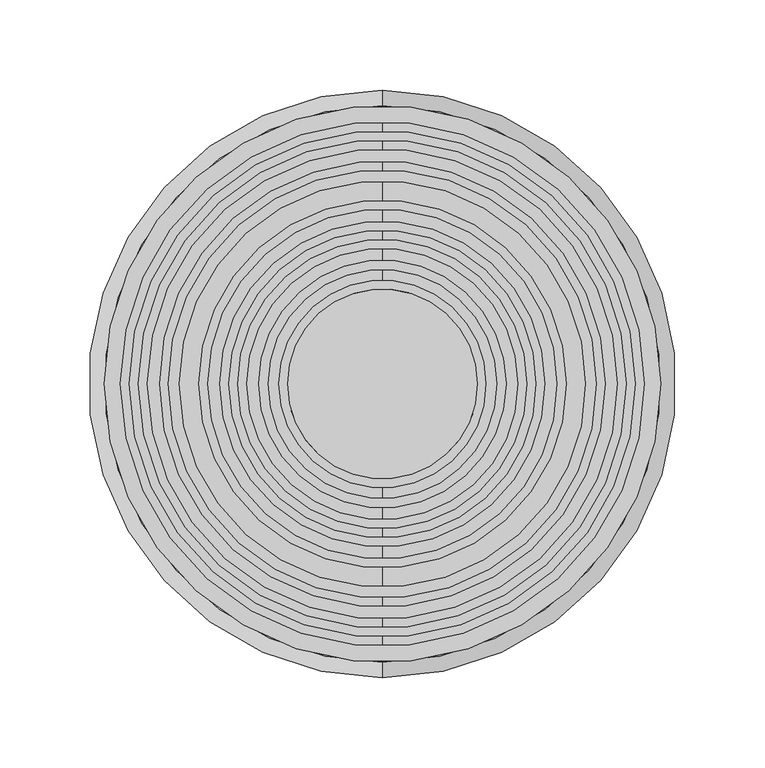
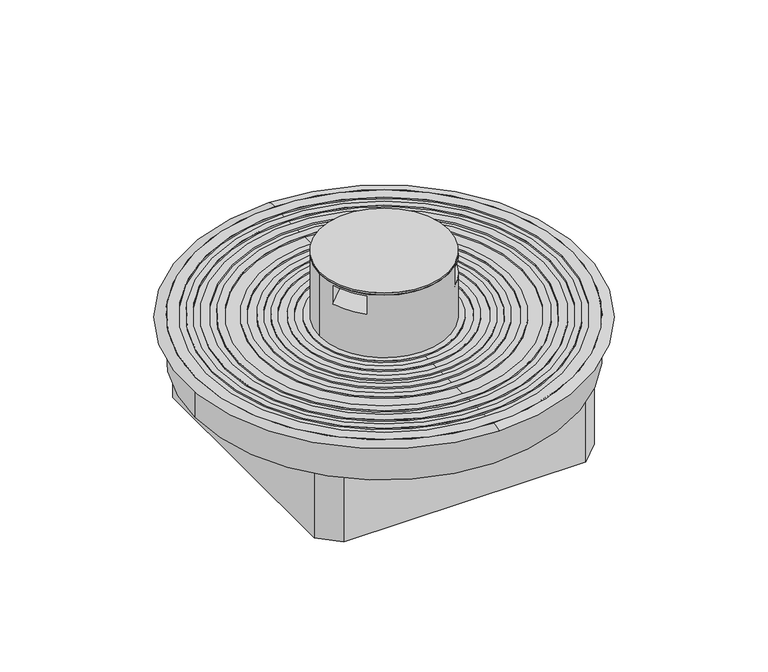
"""IFC4 building model written with IfcOpenShell, lengths in millimetres: proxy geometry, Electrical_Installation_Hager_VE-EE_VANR-Service-unit-for-wet-cleaned-floors-with-tube-cable-outlete-made-of-polyamide : Service unit R12 w set HB wet PA-Tub Al R."""

from ifc_helpers import new_model, si_unit, point, frame, origin, origin_with_axes, origin_2d, place, context, project, spatial, polyline, circle_curve, ellipse_curve, trimmed, segment, composite_curve, outline, extrude, source, transform, mapped, element, save
from ifc_brep_helpers import plane_surface, cylinder_surface, revolved_surface, advanced_brep


def electrical_fixtures_dd5e6c87(model_context):
    return source(origin(), model_context, "Body", "SolidModel", [
        advanced_brep(
        [(-52.5, 0.0, 55.4915844), (52.5, 0.0, 55.4915844), (-52.5, 0.0, 0.0), (52.5, 0.0, 0.0), (34.9195503, -39.2029974, 54.183128), (49.8813985, -16.37364, 54.183128), (49.8813985, -16.37364, 37.983128), (34.9195503, -39.2029974, 37.983128), (-50.3605849, -14.8344695, 54.183128), (-35.8520552, -38.3520552, 54.183128), (-35.8520552, -38.3520552, 37.983128), (-50.3605849, -14.8344695, 37.983128), (14.5983918, 50.4295246, 54.183128), (-15.4016082, 50.1900435, 54.183128), (-15.4016082, 50.1900435, 37.983128), (14.5983918, 50.4295246, 37.983128), (14.5983918, 18.9093667, 54.183128), (0.5989833, -1.9010167, 54.183128), (-15.4016082, 20.1245073, 54.183128), (-15.4016082, 20.1245073, 37.983128), (0.5989833, -1.9010167, 37.983128), (14.5983918, 18.9093667, 37.983128)],
        [
            (0, 1, circle_curve(frame((0.0, 0.0, 55.4915844), z_axis=(0.0, 0.0, 1.0), x_axis=(1.0, 0.0, 0.0)), 52.5)),
            (1, 0, circle_curve(frame((0.0, 0.0, 55.4915844), z_axis=(0.0, 0.0, 1.0), x_axis=(1.0, 0.0, 0.0)), 52.5)),
            (2, 3, circle_curve(frame((0.0, 0.0, 0.0), z_axis=(0.0, 0.0, -1.0), x_axis=(1.0, 0.0, 0.0)), 52.5)),
            (3, 2, circle_curve(frame((0.0, 0.0, 0.0), z_axis=(0.0, 0.0, -1.0), x_axis=(1.0, 0.0, 0.0)), 52.5)),
            (0, 2),
            (3, 1),
            (4, 5, circle_curve(frame((0.0, 0.0, 54.183128), z_axis=(0.0, 0.0, 1.0), x_axis=(1.0, 0.0, 0.0)), 52.5)),
            (5, 6),
            (6, 7, circle_curve(frame((0.0, 0.0, 37.983128), z_axis=(0.0, 0.0, -1.0), x_axis=(1.0, 0.0, 0.0)), 52.5)),
            (7, 4),
            (8, 9, circle_curve(frame((0.0, 0.0, 54.183128), z_axis=(0.0, 0.0, 1.0), x_axis=(1.0, 0.0, 0.0)), 52.5)),
            (9, 10),
            (10, 11, circle_curve(frame((0.0, 0.0, 37.983128), z_axis=(0.0, 0.0, -1.0), x_axis=(1.0, 0.0, 0.0)), 52.5)),
            (11, 8),
            (12, 13, circle_curve(frame((0.0, 0.0, 54.183128), z_axis=(0.0, 0.0, 1.0), x_axis=(1.0, 0.0, 0.0)), 52.5)),
            (13, 14),
            (14, 15, circle_curve(frame((0.0, 0.0, 37.983128), z_axis=(0.0, 0.0, -1.0), x_axis=(1.0, 0.0, 0.0)), 52.5)),
            (15, 12),
            (12, 16),
            (16, 5),
            (4, 17),
            (17, 9),
            (8, 18),
            (18, 13),
            (14, 19),
            (19, 11),
            (10, 20),
            (20, 7),
            (6, 21),
            (21, 15),
            (18, 19),
            (17, 20),
            (16, 21),
        ],
        [
            plane_surface(frame((52.5, 0.0, 55.4915844), z_axis=(0.0, 0.0, 1.0), x_axis=(0.0, 1.0, 0.0))),
            plane_surface(frame((52.5, 0.0, 0.0), z_axis=(0.0, 0.0, -1.0), x_axis=(0.0, -1.0, 0.0))),
            cylinder_surface(origin_with_axes(), 52.5),
            plane_surface(frame((-10.4016082, 67.6593667, 54.183128), z_axis=(0.0, 0.0, -1.0), x_axis=(-1.0, 0.0, 0.0))),
            plane_surface(frame((-10.4016082, 67.6593667, 37.983128), z_axis=(0.0, 0.0, 1.0), x_axis=(1.0, 0.0, 0.0))),
            plane_surface(frame((-15.4016082, 67.6593667, 54.183128), z_axis=(1.0, 0.0, 0.0), x_axis=(0.0, 0.0, -1.0))),
            plane_surface(frame((-15.4016082, 20.1245073, 54.183128), z_axis=(0.707106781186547, -0.707106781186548, 0.0), x_axis=(0.0, 0.0, -1.0))),
            plane_surface(frame((-40.4297486, -42.9297486, 54.183128), z_axis=(-0.7071067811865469, 0.7071067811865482, 0.0), x_axis=(0.0, 0.0, -1.0))),
            plane_surface(frame((0.5989833, -1.9010167, 54.183128), z_axis=(0.7359040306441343, 0.6770858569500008, 0.0), x_axis=(0.0, 0.0, -1.0))),
            plane_surface(frame((53.9604917, -20.4527332, 54.183128), z_axis=(-0.7071067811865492, -0.7071067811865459, 0.0), x_axis=(0.0, 0.0, -1.0))),
            plane_surface(frame((14.5983918, 18.9093667, 54.183128), z_axis=(-1.0, 0.0, 0.0), x_axis=(0.0, 0.0, -1.0))),
        ],
        [
            (0, [[1, 2]]),
            (1, [[3, 4]]),
            (2, [[-1, 5, -4, 6], [7, 8, 9, 10], [11, 12, 13, 14]]),
            (2, [[-2, -6, -3, -5], [15, 16, 17, 18]]),
            (3, [[19, 20, -7, 21, 22, -11, 23, 24, -15]]),
            (4, [[25, 26, -13, 27, 28, -9, 29, 30, -17]]),
            (5, [[31, -25, -16, -24]]),
            (6, [[-31, -23, -14, -26]]),
            (7, [[32, -27, -12, -22]]),
            (8, [[-32, -21, -10, -28]]),
            (9, [[33, -29, -8, -20]]),
            (10, [[-33, -19, -18, -30]]),
        ],
    ),
        extrude(outline(composite_curve([segment(trimmed(circle_curve(origin_2d(), 52.5), [point((-52.5, 0.0))], [point((52.5, 0.0))], False, "CARTESIAN"), True, "CONTINUOUS"), segment(trimmed(circle_curve(origin_2d(), 52.5), [point((52.5, 0.0))], [point((-52.5, 0.0))], False, "CARTESIAN"), True, "CONTINUOUS")], self_intersect=False)), frame((0.0, 0.0, 55.4915844), z_axis=(0.0, 0.0, 1.0), x_axis=(1.0, 0.0, 0.0)), (0.0, 0.0, 1.0), 1.8196468),
        extrude(outline(composite_curve([segment(trimmed(circle_curve(origin_2d(), 140.0), [point((-140.0, 0.0))], [point((140.0, 0.0))], False, "CARTESIAN"), True, "CONTINUOUS"), segment(trimmed(circle_curve(origin_2d(), 140.0), [point((140.0, 0.0))], [point((-140.0, 0.0))], False, "CARTESIAN"), True, "CONTINUOUS")], self_intersect=False), holes=[composite_curve([segment(trimmed(circle_curve(origin_2d(), 135.0), [point((135.0, 0.0))], [point((-135.0, 0.0))], True, "CARTESIAN"), True, "CONTINUOUS"), segment(trimmed(circle_curve(origin_2d(), 135.0), [point((-135.0, 0.0))], [point((135.0, 0.0))], True, "CARTESIAN"), True, "CONTINUOUS")], self_intersect=False)]), origin_with_axes(), (0.0, 0.0, 1.0), 2.0),
        extrude(outline(composite_curve([segment(trimmed(circle_curve(origin_2d(), 130.0), [point((-130.0, 0.0))], [point((130.0, 0.0))], False, "CARTESIAN"), True, "CONTINUOUS"), segment(trimmed(circle_curve(origin_2d(), 130.0), [point((130.0, 0.0))], [point((-130.0, 0.0))], False, "CARTESIAN"), True, "CONTINUOUS")], self_intersect=False), holes=[composite_curve([segment(trimmed(circle_curve(origin_2d(), 123.295296), [point((123.295296, 0.0))], [point((-123.295296, 0.0))], True, "CARTESIAN"), True, "CONTINUOUS"), segment(trimmed(circle_curve(origin_2d(), 123.295296), [point((-123.295296, 0.0))], [point((123.295296, 0.0))], True, "CARTESIAN"), True, "CONTINUOUS")], self_intersect=False)]), origin_with_axes(), (0.0, 0.0, 1.0), 2.0),
        extrude(outline(composite_curve([segment(trimmed(circle_curve(origin_2d(), 118.499994), [point((-118.499994, 0.0))], [point((118.499994, 0.0))], False, "CARTESIAN"), True, "CONTINUOUS"), segment(trimmed(circle_curve(origin_2d(), 118.499994), [point((118.499994, 0.0))], [point((-118.499994, 0.0))], False, "CARTESIAN"), True, "CONTINUOUS")], self_intersect=False), holes=[composite_curve([segment(trimmed(circle_curve(origin_2d(), 112.3953075), [point((112.3953075, 0.0))], [point((-112.3953075, 0.0))], True, "CARTESIAN"), True, "CONTINUOUS"), segment(trimmed(circle_curve(origin_2d(), 112.3953075), [point((-112.3953075, 0.0))], [point((112.3953075, 0.0))], True, "CARTESIAN"), True, "CONTINUOUS")], self_intersect=False)]), origin_with_axes(), (0.0, 0.0, 1.0), 2.0),
        extrude(outline(composite_curve([segment(trimmed(circle_curve(origin_2d(), 101.6340503), [point((-101.6340503, 0.0))], [point((101.6340503, 0.0))], False, "CARTESIAN"), True, "CONTINUOUS"), segment(trimmed(circle_curve(origin_2d(), 101.6340503), [point((101.6340503, 0.0))], [point((-101.6340503, 0.0))], False, "CARTESIAN"), True, "CONTINUOUS")], self_intersect=False), holes=[composite_curve([segment(trimmed(circle_curve(origin_2d(), 96.6344819), [point((96.6344819, 0.0))], [point((-96.6344819, 0.0))], True, "CARTESIAN"), True, "CONTINUOUS"), segment(trimmed(circle_curve(origin_2d(), 96.6344819), [point((-96.6344819, 0.0))], [point((96.6344819, 0.0))], True, "CARTESIAN"), True, "CONTINUOUS")], self_intersect=False)]), origin_with_axes(), (0.0, 0.0, 1.0), 2.0),
        extrude(outline(composite_curve([segment(trimmed(circle_curve(origin_2d(), 90.0), [point((-90.0, 0.0))], [point((90.0, 0.0))], False, "CARTESIAN"), True, "CONTINUOUS"), segment(trimmed(circle_curve(origin_2d(), 90.0), [point((90.0, 0.0))], [point((-90.0, 0.0))], False, "CARTESIAN"), True, "CONTINUOUS")], self_intersect=False), holes=[composite_curve([segment(trimmed(circle_curve(origin_2d(), 85.0), [point((85.0, 0.0))], [point((-85.0, 0.0))], True, "CARTESIAN"), True, "CONTINUOUS"), segment(trimmed(circle_curve(origin_2d(), 85.0), [point((-85.0, 0.0))], [point((85.0, 0.0))], True, "CARTESIAN"), True, "CONTINUOUS")], self_intersect=False)]), origin_with_axes(), (0.0, 0.0, 1.0), 2.0),
        extrude(outline(composite_curve([segment(trimmed(circle_curve(origin_2d(), 80.0), [point((-80.0, 0.0))], [point((80.0, 0.0))], False, "CARTESIAN"), True, "CONTINUOUS"), segment(trimmed(circle_curve(origin_2d(), 80.0), [point((80.0, 0.0))], [point((-80.0, 0.0))], False, "CARTESIAN"), True, "CONTINUOUS")], self_intersect=False), holes=[composite_curve([segment(trimmed(circle_curve(origin_2d(), 75.0), [point((75.0, 0.0))], [point((-75.0, 0.0))], True, "CARTESIAN"), True, "CONTINUOUS"), segment(trimmed(circle_curve(origin_2d(), 75.0), [point((-75.0, 0.0))], [point((75.0, 0.0))], True, "CARTESIAN"), True, "CONTINUOUS")], self_intersect=False)]), origin_with_axes(), (0.0, 0.0, 1.0), 2.0),
        extrude(outline(composite_curve([segment(trimmed(circle_curve(origin_2d(), 68.4542428), [point((-68.4542428, 0.0))], [point((68.4542428, 0.0))], False, "CARTESIAN"), True, "CONTINUOUS"), segment(trimmed(circle_curve(origin_2d(), 68.4542428), [point((68.4542428, 0.0))], [point((-68.4542428, 0.0))], False, "CARTESIAN"), True, "CONTINUOUS")], self_intersect=False), holes=[composite_curve([segment(trimmed(circle_curve(origin_2d(), 63.2916126), [point((63.2916126, 0.0))], [point((-63.2916126, 0.0))], True, "CARTESIAN"), True, "CONTINUOUS"), segment(trimmed(circle_curve(origin_2d(), 63.2916126), [point((-63.2916126, 0.0))], [point((63.2916126, 0.0))], True, "CARTESIAN"), True, "CONTINUOUS")], self_intersect=False)]), origin_with_axes(), (0.0, 0.0, 1.0), 2.0),
        extrude(outline(composite_curve([segment(trimmed(circle_curve(origin_2d(), 57.3493288), [point((-57.3493288, 0.0))], [point((57.3493288, 0.0))], False, "CARTESIAN"), True, "CONTINUOUS"), segment(trimmed(circle_curve(origin_2d(), 57.3493288), [point((57.3493288, 0.0))], [point((-57.3493288, 0.0))], False, "CARTESIAN"), True, "CONTINUOUS")], self_intersect=False)), origin_with_axes(), (0.0, 0.0, 1.0), 2.0),
        extrude(outline(composite_curve([segment(trimmed(circle_curve(origin_2d(), 154.0), [point((-154.0, 0.0))], [point((154.0, 0.0))], False, "CARTESIAN"), True, "CONTINUOUS"), segment(trimmed(circle_curve(origin_2d(), 154.0), [point((154.0, 0.0))], [point((-154.0, 0.0))], False, "CARTESIAN"), True, "CONTINUOUS")], self_intersect=False), holes=[composite_curve([segment(trimmed(circle_curve(origin_2d(), 145.0), [point((145.0, 0.0))], [point((-145.0, 0.0))], True, "CARTESIAN"), True, "CONTINUOUS"), segment(trimmed(circle_curve(origin_2d(), 145.0), [point((-145.0, 0.0))], [point((145.0, 0.0))], True, "CARTESIAN"), True, "CONTINUOUS")], self_intersect=False)]), origin_with_axes(), (0.0, 0.0, 1.0), 2.0),
        extrude(outline(polyline([(-99.0882065, 114.5), (99.3942383, 114.5), (114.5, 99.0262113), (114.5, -98.7169494), (98.5882125, -114.5), (-98.7359175, -114.5), (-114.5, -99.7976183), (-114.5, 100.165624), (-99.0882065, 114.5)]), holes=[polyline([(111.0181904, 98.7695063), (98.7659338, 111.5), (-98.7903505, 111.5), (-111.5, 98.7903505), (-111.5, -98.7903505), (-98.7903505, -111.5), (98.2048826, -111.5), (111.0181904, -96.4986902), (111.0181904, 98.7695063)])]), frame((0.0, 0.0, -90.0), z_axis=(0.0, 0.0, 1.0), x_axis=(1.0, 0.0, 0.0)), (0.0, 0.0, 1.0), 57.0),
        extrude(outline(composite_curve([segment(trimmed(circle_curve(origin_2d(), 154.0), [point((-154.0, 0.0))], [point((154.0, 0.0))], False, "CARTESIAN"), True, "CONTINUOUS"), segment(trimmed(circle_curve(origin_2d(), 154.0), [point((154.0, 0.0))], [point((-154.0, 0.0))], False, "CARTESIAN"), True, "CONTINUOUS")], self_intersect=False), holes=[composite_curve([segment(trimmed(circle_curve(origin_2d(), 149.4973074), [point((-114.5, -96.120731))], [point((-96.120731, -114.5))], True, "CARTESIAN"), True, "CONTINUOUS"), segment(polyline([(-96.120731, -114.5), (96.120731, -114.5)]), True, "CONTINUOUS"), segment(trimmed(circle_curve(origin_2d(), 149.4973074), [point((96.120731, -114.5))], [point((114.5, -96.120731))], True, "CARTESIAN"), True, "CONTINUOUS"), segment(polyline([(114.5, -96.120731), (114.5, 96.120731)]), True, "CONTINUOUS"), segment(trimmed(circle_curve(origin_2d(), 149.4973074), [point((114.5, 96.120731))], [point((96.120731, 114.5))], True, "CARTESIAN"), True, "CONTINUOUS"), segment(polyline([(96.120731, 114.5), (-96.120731, 114.5)]), True, "CONTINUOUS"), segment(trimmed(circle_curve(origin_2d(), 149.4973074), [point((-96.120731, 114.5))], [point((-114.5, 96.120731))], True, "CARTESIAN"), True, "CONTINUOUS"), segment(polyline([(-114.5, 96.120731), (-114.5, -96.120731)]), True, "CONTINUOUS")], self_intersect=False)]), frame((0.0, 0.0, -33.0), z_axis=(0.0, 0.0, 1.0), x_axis=(1.0, 0.0, 0.0)), (0.0, 0.0, 1.0), 33.0),
        advanced_brep(
        [(0.0, -162.5, 0.0), (0.0, 162.5, 0.0), (0.0, 0.0, 0.0), (0.0, -154.0132917, 0.9941326), (0.0, 154.0132917, 0.9941326), (0.0, 154.0132917, 1.9800426), (0.0, -154.0132917, 1.9800426), (0.0, 0.0, 0.9941326)],
        [
            (0, 1, circle_curve(frame((0.0, 0.0, 0.0), z_axis=(0.0, 0.0, -1.0), x_axis=(0.0, 1.0, 0.0)), 162.5)),
            (1, 2),
            (2, 0),
            (1, 0, circle_curve(frame((0.0, 0.0, 0.0), z_axis=(0.0, 0.0, -1.0), x_axis=(0.0, 1.0, 0.0)), 162.5)),
            (3, 4, circle_curve(frame((0.0, 0.0, 0.9941326), z_axis=(0.0, 0.0, -1.0), x_axis=(0.0, 1.0, 0.0)), 154.0132917)),
            (4, 5),
            (5, 6, circle_curve(frame((0.0, 0.0, 1.9800426), z_axis=(0.0, 0.0, 1.0), x_axis=(0.0, 1.0, 0.0)), 154.0132917)),
            (6, 3),
            (4, 3, circle_curve(frame((0.0, 0.0, 0.9941326), z_axis=(0.0, 0.0, -1.0), x_axis=(0.0, 1.0, 0.0)), 154.0132917)),
            (6, 5, circle_curve(frame((0.0, 0.0, 1.9800426), z_axis=(0.0, 0.0, 1.0), x_axis=(0.0, 1.0, 0.0)), 154.0132917)),
            (7, 4),
            (3, 7),
            (5, 1, circle_curve(frame((0.0, 154.4758851, -15.2147882), z_axis=(-1.0, 0.0, 0.0), x_axis=(0.0, 1.0, 0.0)), 17.2010523)),
            (0, 6, circle_curve(frame((0.0, -154.4758851, -15.2147882), z_axis=(-1.0, 0.0, 0.0), x_axis=(0.0, -1.0, 0.0)), 17.2010523)),
        ],
        [
            plane_surface(frame((0.0, 0.0, 0.0), z_axis=(0.0, 0.0, -1.0), x_axis=(0.0, 1.0, 0.0))),
            revolved_surface(polyline([(0.0, 154.0132917, 1.9800426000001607), (0.0, 154.0132917, 0.9941325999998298)]), (0.0, 0.0, 2341.8067943), (0.0, 0.0, 1.0)),
            plane_surface(frame((0.0, 0.0, 0.9941326), z_axis=(0.0, 0.0, 1.0), x_axis=(0.0, 1.0, 0.0))),
            revolved_surface(trimmed(ellipse_curve(frame((0.0, 154.4758851, -15.2147882), z_axis=(1.0, 0.0, 0.0), x_axis=(0.0, 1.0, 0.0)), 17.2010523, 17.2010523), [point((0.0, 162.5, 0.0))], [point((0.0, 154.0132917, 1.9800426))], True, "CARTESIAN"), (0.0, 0.0, 2341.8067943), (0.0, 0.0, 1.0)),
        ],
        [
            (0, [[1, 2, 3]]),
            (0, [[4, -3, -2]]),
            (1, [[5, 6, 7, 8]]),
            (1, [[9, -8, 10, -6]]),
            (2, [[11, -5, 12]]),
            (2, [[-12, -9, -11]]),
            (3, [[-7, 13, -1, 14]]),
            (3, [[-10, -14, -4, -13]]),
        ],
    ),
    ])


if __name__ == "__main__":
    model = new_model("IFC4")
    model_context = context("Model", 3, world=origin())
    ifc_project = project(units=[si_unit("LENGTHUNIT", "METRE", prefix="MILLI")], contexts=[model_context])
    site = spatial("IfcSite", under=ifc_project)
    building = spatial("IfcBuilding", under=site)
    placement = place(None, origin())
    electrical_fixtures_shape = electrical_fixtures_dd5e6c87(model_context)
    element("IfcBuildingElementProxy", 1, Name="Electrical_Installation_Hager_VE-EE_VANR-Service-unit-for-wet-cleaned-floors-with-tube-cable-outlete-made-of-polyamide : Service unit R12 w set HB wet PA-Tub Al R", ObjectType="Electrical_Installation_Hager_VE-EE_VANR-Service-unit-for-wet-cleaned-floors-with-tube-cable-outlete-made-of-polyamide : Service unit R12 w set HB wet PA-Tub Al R", at=placement, inside=building, context=model_context, shape_type="MappedRepresentation", body=[
        mapped(electrical_fixtures_shape, transform((0.0, 0.0, 0.0), x_axis=(1.0, 0.0, 0.0), y_axis=(0.0, 1.0, 0.0), z_axis=(0.0, 0.0, 1.0))),
    ])
    save(model, "model.ifc")
